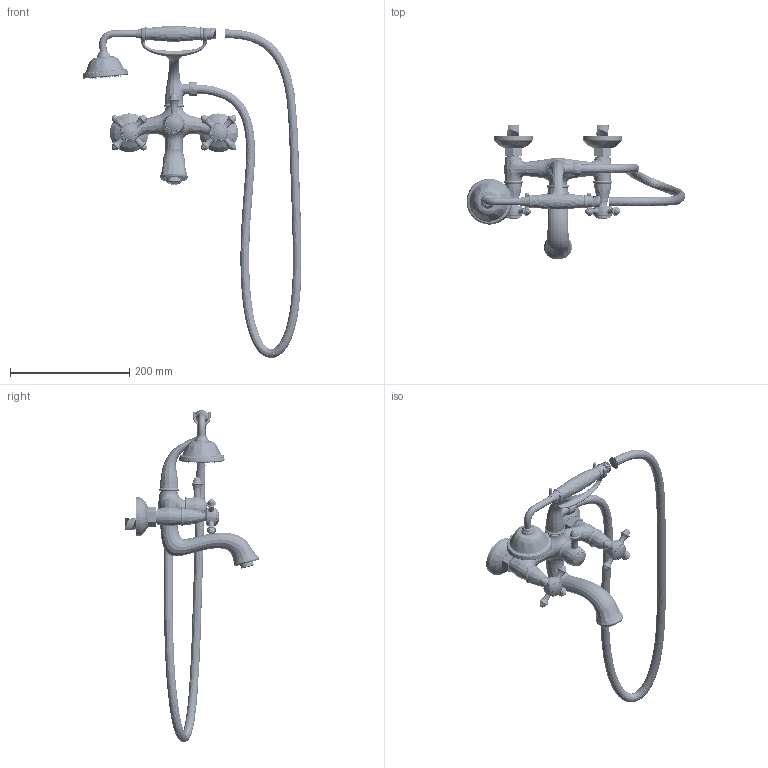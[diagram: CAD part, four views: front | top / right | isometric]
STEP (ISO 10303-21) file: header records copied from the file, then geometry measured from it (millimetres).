
FILE_DESCRIPTION(/* description */ (''),/* implementation_level */ '2;1');
FILE_NAME(/* name */ 'c:\worker\convert-fusion-r09\tmp\job-1\17\output\files\61a178a7-ec43-4bb2-aef4-66e76c5f9af6\b8559049-99e5-4f2b-be8d-fb179642d7f8.stp',/* time_stamp */ '2019-12-17T10:11:31+00:00',/* author */ (''),/* organization */ (''),/* preprocessor_version */ 'ST-DEVELOPER v18',/* originating_system */ 'Autodesk Translation Framework v8.12.0.6',/* authorisation */ '');
FILE_SCHEMA (('AUTOMOTIVE_DESIGN { 1 0 10303 214 3 1 1 }'));
Products named in the file (1): !RE7231
Bounding box: 367.21 x 226.18 x 556.96 mm (x, y, z)
Volume: 672059.9 mm3; surface area: 318640.5 mm2
Topology: 50 solids, 50 shells, 3989 faces, 11413 edges, 7680 vertices
Faces by surface type: cylinder 1404, plane 1108, bspline 699, cone 315, torus 259, sphere 204
Full cylindrical faces by diameter (mm): 1 x48, 2.7 x2, 3 x2, 3.42 x2, 3.6 x1, 4 x47, 4.2 x1, 4.5 x5, 5 x4, 6 x1, 6.5 x2, 7 x1, 7.1 x1, 7.8 x3, 8.5 x1, 9 x9, 9.5 x4, 9.6 x2, 9.9 x2, 10 x4, 11 x1, 12 x2, 13 x2, 13.5 x2, 14 x7, 14.596 x2, 15 x7, 15.5 x2, 16 x3, 16.2 x1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
Entity records: 266707 total; most frequent: CARTESIAN_POINT 167633, ORIENTED_EDGE 22786, DIRECTION 18874, EDGE_CURVE 11393, AXIS2_PLACEMENT_3D 7681, VERTEX_POINT 7680, CIRCLE 4294, EDGE_LOOP 4266
